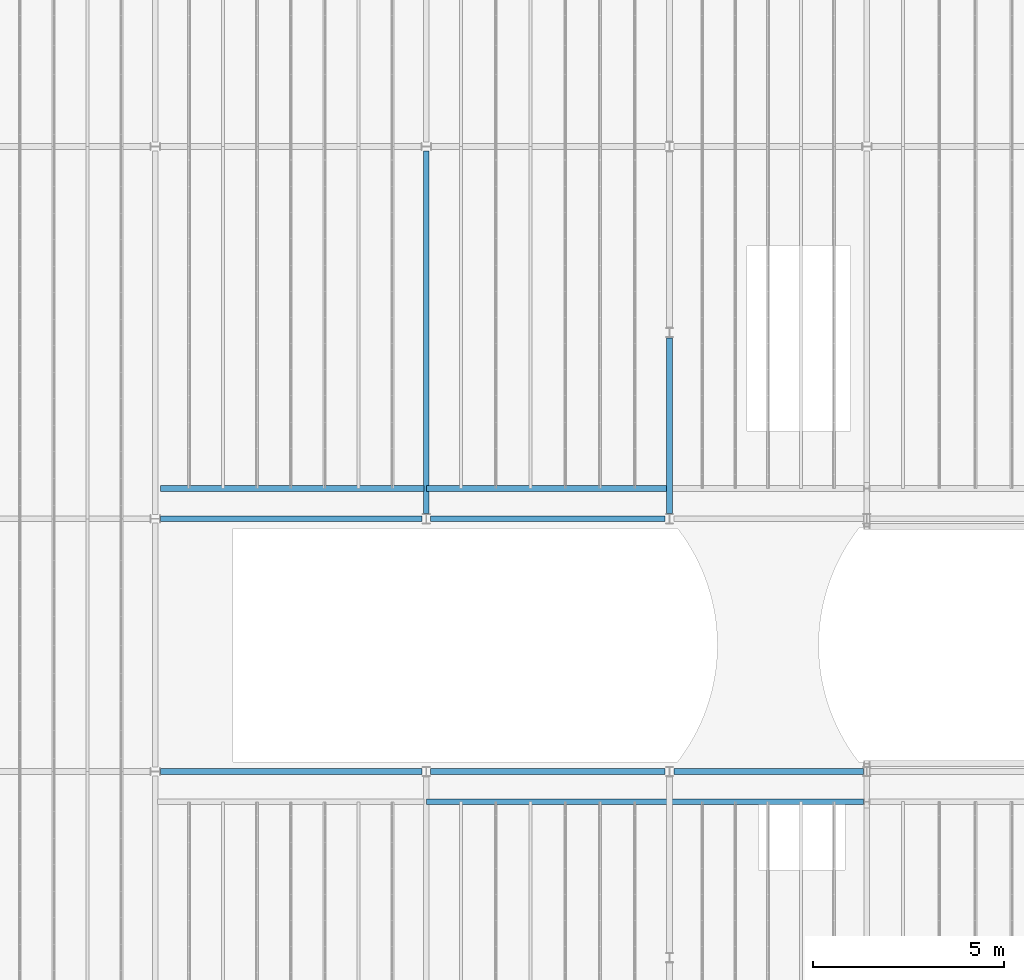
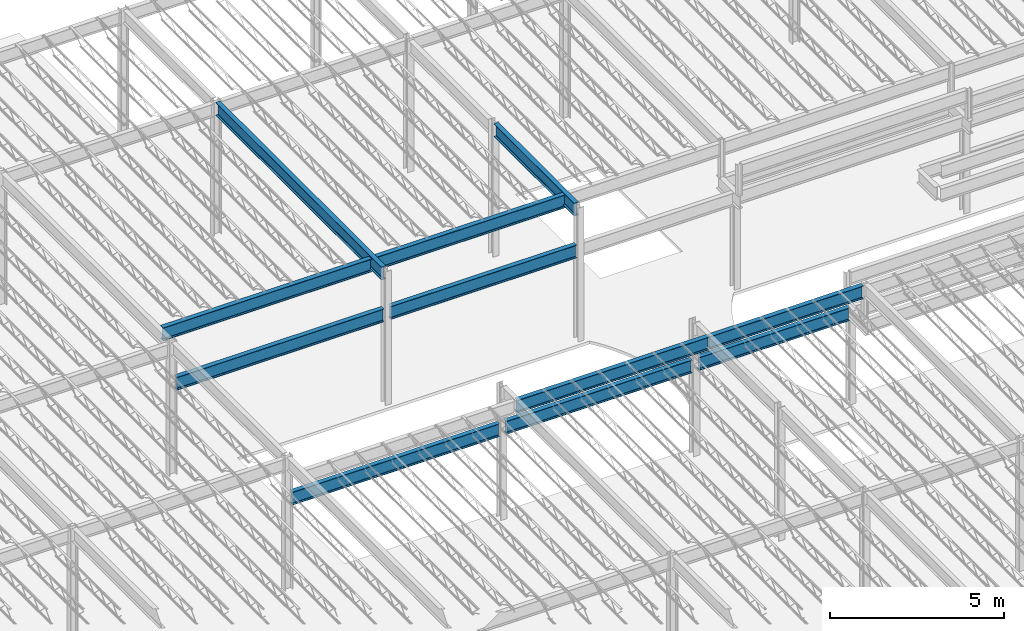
# One storey, part 11 of 119: 11 beams.
"""IFC2X3 building model written with IfcOpenShell, lengths in metres."""

from ifc_helpers import new_model, entity, si_unit, converted_unit, frame, frame_2d, origin, place, context, project, spatial, polyline, circle_curve, parameter, trimmed, segment, composite_curve, outline, extrude, material, element, save


model = new_model("IFC2X3")

# Units and contexts
model_context = context("Model", 3, precision=1e-09, world=origin())
plan_context = context("Plan", 3, precision=1e-09, world=origin())
ifc_project = project(units=[si_unit("LENGTHUNIT", "METRE"), si_unit("AREAUNIT", "SQUARE_METRE"), si_unit("VOLUMEUNIT", "CUBIC_METRE"), converted_unit("PLANEANGLEUNIT", "DEGREE", entity("IfcRatioMeasure", 0.01745329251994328), si_unit("PLANEANGLEUNIT", "RADIAN"), dimensions=[0, 0, 0, 0, 0, 0, 0]), si_unit("TIMEUNIT", "SECOND")], contexts=[model_context, plan_context])

# Site, building, storey
site_placement = place(None, origin())
site = spatial("IfcSite", under=ifc_project, at=site_placement, Name="Default", CompositionType="ELEMENT")
building_placement = place(site_placement, origin())
building = spatial("IfcBuilding", under=site, at=building_placement, CompositionType="ELEMENT")
storey_placement = place(building_placement, frame((0.0, 0.0, 4.570000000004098)))
storey = spatial("IfcBuildingStorey", under=building, at=storey_placement, Name="Second Floor", CompositionType="ELEMENT", Elevation=4.570000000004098)

# Beams
ifc_material = material(Name="Metal - Steel - 345 MPa")
beam_1_placement = place(storey_placement, frame((-20.06, 35.01386717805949, 4.679999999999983)))
element("IfcBeam", 1, at=beam_1_placement, inside=storey, material=ifc_material, Name="M_W-Wide Flange:W460X60:W460X60", ObjectType="M_W-Wide Flange:W460X60", context=model_context, shape_type="SweptSolid", body=[
    extrude(outline(composite_curve([segment(polyline([(-0.07649999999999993, -0.214199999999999), (-0.07649999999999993, -0.2275000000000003)]), True, "CONTINUOUS"), segment(polyline([(-0.07649999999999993, -0.2275000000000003), (0.07649999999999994, -0.2275000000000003)]), True, "CONTINUOUS"), segment(polyline([(0.07649999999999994, -0.2275000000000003), (0.07649999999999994, -0.214199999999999)]), True, "CONTINUOUS"), segment(polyline([(0.07649999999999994, -0.214199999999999), (0.0216999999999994, -0.214199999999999)]), True, "CONTINUOUS"), segment(trimmed(circle_curve(frame_2d((0.0216999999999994, -0.1964999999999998), x_axis=(0.0, -1.0)), 0.0177), [parameter(269.9999999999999)], [parameter(359.9999999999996)], True, "PARAMETER"), False, "CONTINUOUS"), segment(polyline([(0.00399999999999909, -0.1964999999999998), (0.00399999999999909, 0.1965000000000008)]), True, "CONTINUOUS"), segment(trimmed(circle_curve(frame_2d((0.0216999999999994, 0.1965000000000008), x_axis=(-1.0, 0.0)), 0.0177), [parameter(269.9999999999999)], [parameter(359.9999999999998)], True, "PARAMETER"), False, "CONTINUOUS"), segment(polyline([(0.0216999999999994, 0.2142000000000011), (0.07649999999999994, 0.2142000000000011)]), True, "CONTINUOUS"), segment(polyline([(0.07649999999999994, 0.2142000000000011), (0.07649999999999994, 0.2275000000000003)]), True, "CONTINUOUS"), segment(polyline([(0.07649999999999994, 0.2275000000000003), (-0.07649999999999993, 0.2275000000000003)]), True, "CONTINUOUS"), segment(polyline([(-0.07649999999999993, 0.2275000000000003), (-0.07649999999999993, 0.2142000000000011)]), True, "CONTINUOUS"), segment(polyline([(-0.07649999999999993, 0.2142000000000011), (-0.0216999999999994, 0.2142000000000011)]), True, "CONTINUOUS"), segment(trimmed(circle_curve(frame_2d((-0.0216999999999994, 0.1965000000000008), x_axis=(0.0, 1.0)), 0.0177), [parameter(269.9999999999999)], [parameter(359.9999999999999)], True, "PARAMETER"), False, "CONTINUOUS"), segment(polyline([(-0.003999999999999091, 0.1965000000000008), (-0.003999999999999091, -0.1964999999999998)]), True, "CONTINUOUS"), segment(trimmed(circle_curve(frame_2d((-0.0216999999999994, -0.1964999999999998), x_axis=(1.0, 0.0)), 0.0177), [parameter(269.9999999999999)], [parameter(5.088887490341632e-14)], True, "PARAMETER"), False, "CONTINUOUS"), segment(polyline([(-0.0216999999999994, -0.214199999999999), (-0.07649999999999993, -0.214199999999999)]), True, "CONTINUOUS")], self_intersect=False)), frame((0.0, 0.1373328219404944, -0.2275000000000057), z_axis=(0.0, -1.0, 0.0), x_axis=(1.0, 0.0, 0.0)), (0.0, 0.0, -1.0), 4.602979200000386),
])
beam_2_placement = place(storey_placement, frame((-26.44000000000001, 44.77806591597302, 4.679999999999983), z_axis=(0.0, 0.0, 1.0), x_axis=(-1.0, 0.0, 0.0)))
element("IfcBeam", 2, at=beam_2_placement, inside=storey, material=ifc_material, Name="M_W-Wide Flange:W460X60:W460X60", ObjectType="M_W-Wide Flange:W460X60", context=model_context, shape_type="SweptSolid", body=[
    extrude(outline(composite_curve([segment(polyline([(0.2142000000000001, -0.07649999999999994), (0.2275000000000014, -0.07649999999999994)]), True, "CONTINUOUS"), segment(polyline([(0.2275000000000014, -0.07649999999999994), (0.2275000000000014, 0.07649999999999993)]), True, "CONTINUOUS"), segment(polyline([(0.2275000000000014, 0.07649999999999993), (0.2142000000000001, 0.07649999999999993)]), True, "CONTINUOUS"), segment(polyline([(0.2142000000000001, 0.07649999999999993), (0.2142000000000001, 0.0216999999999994)]), True, "CONTINUOUS"), segment(trimmed(circle_curve(frame_2d((0.1965000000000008, 0.0216999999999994), x_axis=(1.0, 0.0)), 0.0177), [parameter(269.9999999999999)], [parameter(359.9999999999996)], True, "PARAMETER"), False, "CONTINUOUS"), segment(polyline([(0.1965000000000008, 0.003999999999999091), (-0.1964999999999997, 0.003999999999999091)]), True, "CONTINUOUS"), segment(trimmed(circle_curve(frame_2d((-0.1964999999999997, 0.0216999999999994), x_axis=(0.0, -1.0)), 0.0177), [parameter(269.9999999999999)], [parameter(359.9999999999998)], True, "PARAMETER"), False, "CONTINUOUS"), segment(polyline([(-0.2142, 0.0216999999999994), (-0.2142, 0.07649999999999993)]), True, "CONTINUOUS"), segment(polyline([(-0.2142, 0.07649999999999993), (-0.2274999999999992, 0.07649999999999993)]), True, "CONTINUOUS"), segment(polyline([(-0.2274999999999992, 0.07649999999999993), (-0.2274999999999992, -0.07649999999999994)]), True, "CONTINUOUS"), segment(polyline([(-0.2274999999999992, -0.07649999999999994), (-0.2142, -0.07649999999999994)]), True, "CONTINUOUS"), segment(polyline([(-0.2142, -0.07649999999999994), (-0.2142, -0.0216999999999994)]), True, "CONTINUOUS"), segment(trimmed(circle_curve(frame_2d((-0.1964999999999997, -0.0216999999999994), x_axis=(-1.0, 0.0)), 0.0177), [parameter(269.9999999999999)], [parameter(359.9999999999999)], True, "PARAMETER"), False, "CONTINUOUS"), segment(polyline([(-0.1964999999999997, -0.003999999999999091), (0.1965000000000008, -0.003999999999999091)]), True, "CONTINUOUS"), segment(trimmed(circle_curve(frame_2d((0.1965000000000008, -0.0216999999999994), x_axis=(0.0, 1.0)), 0.0177), [parameter(269.9999999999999)], [parameter(5.088887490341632e-14)], True, "PARAMETER"), False, "CONTINUOUS"), segment(polyline([(0.2142000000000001, -0.0216999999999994), (0.2142000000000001, -0.07649999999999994)]), True, "CONTINUOUS")], self_intersect=False)), frame((0.0, 9.626865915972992, -0.2275000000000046), z_axis=(0.0, -1.0, 0.0), x_axis=(0.0, 0.0, -1.0)), (0.0, 0.0, 1.0), 9.514099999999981),
])
beam_3_placement = place(storey_placement, frame((-26.55170178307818, 35.01000000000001, 3.366499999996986), z_axis=(0.0, 0.0, 1.0), x_axis=(0.0, 1.0, 0.0)))
element("IfcBeam", 3, at=beam_3_placement, inside=storey, material=ifc_material, Name="M_W-Wide Flange:W460X60:W460X60", ObjectType="M_W-Wide Flange:W460X60", context=model_context, shape_type="SweptSolid", body=[
    extrude(outline(composite_curve([segment(polyline([(0.214199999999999, -0.07650000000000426), (0.2275000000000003, -0.07650000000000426)]), True, "CONTINUOUS"), segment(polyline([(0.2275000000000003, -0.07650000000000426), (0.2275000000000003, 0.0764999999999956)]), True, "CONTINUOUS"), segment(polyline([(0.2275000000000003, 0.0764999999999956), (0.214199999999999, 0.0764999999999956)]), True, "CONTINUOUS"), segment(polyline([(0.214199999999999, 0.0764999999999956), (0.214199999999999, 0.02169999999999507)]), True, "CONTINUOUS"), segment(trimmed(circle_curve(frame_2d((0.1964999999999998, 0.02169999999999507), x_axis=(1.0, 0.0)), 0.0177), [parameter(269.9999999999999)], [parameter(359.9999999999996)], True, "PARAMETER"), False, "CONTINUOUS"), segment(polyline([(0.1964999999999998, 0.00399999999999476), (-0.1965000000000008, 0.00399999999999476)]), True, "CONTINUOUS"), segment(trimmed(circle_curve(frame_2d((-0.1965000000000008, 0.02169999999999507), x_axis=(0.0, -1.0)), 0.0177), [parameter(269.9999999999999)], [parameter(359.9999999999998)], True, "PARAMETER"), False, "CONTINUOUS"), segment(polyline([(-0.2142000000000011, 0.02169999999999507), (-0.2142000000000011, 0.0764999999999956)]), True, "CONTINUOUS"), segment(polyline([(-0.2142000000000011, 0.0764999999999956), (-0.2275000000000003, 0.0764999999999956)]), True, "CONTINUOUS"), segment(polyline([(-0.2275000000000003, 0.0764999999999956), (-0.2275000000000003, -0.07650000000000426)]), True, "CONTINUOUS"), segment(polyline([(-0.2275000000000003, -0.07650000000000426), (-0.2142000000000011, -0.07650000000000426)]), True, "CONTINUOUS"), segment(polyline([(-0.2142000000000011, -0.07650000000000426), (-0.2142000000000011, -0.02170000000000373)]), True, "CONTINUOUS"), segment(trimmed(circle_curve(frame_2d((-0.1965000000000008, -0.02170000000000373), x_axis=(-1.0, 0.0)), 0.0177), [parameter(269.9999999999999)], [parameter(359.9999999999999)], True, "PARAMETER"), False, "CONTINUOUS"), segment(polyline([(-0.1965000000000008, -0.004000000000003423), (0.1964999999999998, -0.004000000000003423)]), True, "CONTINUOUS"), segment(trimmed(circle_curve(frame_2d((0.1964999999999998, -0.02170000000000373), x_axis=(0.0, 1.0)), 0.0177), [parameter(269.9999999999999)], [parameter(5.088887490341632e-14)], True, "PARAMETER"), False, "CONTINUOUS"), segment(polyline([(0.214199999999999, -0.02170000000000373), (0.214199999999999, -0.07650000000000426)]), True, "CONTINUOUS")], self_intersect=False)), frame((0.0, 6.85709821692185, -0.2275000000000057), z_axis=(0.0, -1.0, 0.0), x_axis=(0.0, 0.0, -1.0)), (0.0, 0.0, 1.0), 6.854099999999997),
])
beam_4_placement = place(storey_placement, frame((-13.8042613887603, 28.38000000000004, 3.366499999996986), z_axis=(0.0, 0.0, 1.0), x_axis=(0.0, 1.0, 0.0)))
element("IfcBeam", 4, at=beam_4_placement, inside=storey, material=ifc_material, Name="M_W-Wide Flange:W460X60:W460X60", ObjectType="M_W-Wide Flange:W460X60", context=model_context, shape_type="SweptSolid", body=[
    extrude(outline(composite_curve([segment(polyline([(-0.07649999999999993, -0.2142000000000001), (-0.07649999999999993, -0.2275000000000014)]), True, "CONTINUOUS"), segment(polyline([(-0.07649999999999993, -0.2275000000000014), (0.07649999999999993, -0.2275000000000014)]), True, "CONTINUOUS"), segment(polyline([(0.07649999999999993, -0.2275000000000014), (0.07649999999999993, -0.2142000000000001)]), True, "CONTINUOUS"), segment(polyline([(0.07649999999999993, -0.2142000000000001), (0.0216999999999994, -0.2142000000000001)]), True, "CONTINUOUS"), segment(trimmed(circle_curve(frame_2d((0.0216999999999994, -0.1965000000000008), x_axis=(1.0, 0.0)), 0.0177), [parameter(180.0)], [parameter(269.9999999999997)], True, "PARAMETER"), False, "CONTINUOUS"), segment(polyline([(0.003999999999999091, -0.1965000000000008), (0.003999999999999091, 0.1964999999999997)]), True, "CONTINUOUS"), segment(trimmed(circle_curve(frame_2d((0.0216999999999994, 0.1964999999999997), x_axis=(1.0, 0.0)), 0.0177), [parameter(90.00000000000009)], [parameter(179.9999999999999)], True, "PARAMETER"), False, "CONTINUOUS"), segment(polyline([(0.0216999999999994, 0.2142), (0.07649999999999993, 0.2142)]), True, "CONTINUOUS"), segment(polyline([(0.07649999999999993, 0.2142), (0.07649999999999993, 0.2274999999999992)]), True, "CONTINUOUS"), segment(polyline([(0.07649999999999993, 0.2274999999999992), (-0.07649999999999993, 0.2274999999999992)]), True, "CONTINUOUS"), segment(polyline([(-0.07649999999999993, 0.2274999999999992), (-0.07649999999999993, 0.2142)]), True, "CONTINUOUS"), segment(polyline([(-0.07649999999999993, 0.2142), (-0.0216999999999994, 0.2142)]), True, "CONTINUOUS"), segment(trimmed(circle_curve(frame_2d((-0.0216999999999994, 0.1964999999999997), x_axis=(1.0, 0.0)), 0.0177), [parameter(359.9999999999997)], [parameter(89.99999999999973)], True, "PARAMETER"), False, "CONTINUOUS"), segment(polyline([(-0.003999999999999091, 0.1964999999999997), (-0.003999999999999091, -0.1965000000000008)]), True, "CONTINUOUS"), segment(trimmed(circle_curve(frame_2d((-0.0216999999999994, -0.1965000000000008), x_axis=(1.0, 0.0)), 0.0177), [parameter(269.9999999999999)], [parameter(0.0)], True, "PARAMETER"), False, "CONTINUOUS"), segment(polyline([(-0.0216999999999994, -0.2142000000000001), (-0.07649999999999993, -0.2142000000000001)]), True, "CONTINUOUS")], self_intersect=False)), frame((0.0, 6.141038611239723, -0.2275000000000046), z_axis=(0.0, 1.0, 0.0), x_axis=(-1.0, 0.0, 0.0)), (0.0, 0.0, -1.0), 4.976134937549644),
])
beam_5_placement = place(storey_placement, frame((-20.18426138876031, 35.00999999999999, 3.366499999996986), z_axis=(0.0, 0.0, 1.0), x_axis=(0.0, 1.0, 0.0)))
element("IfcBeam", 5, at=beam_5_placement, inside=storey, material=ifc_material, Name="M_W-Wide Flange:W460X60:W460X60", ObjectType="M_W-Wide Flange:W460X60", context=model_context, shape_type="SweptSolid", body=[
    extrude(outline(composite_curve([segment(polyline([(0.214199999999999, -0.07649999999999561), (0.2275000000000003, -0.07649999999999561)]), True, "CONTINUOUS"), segment(polyline([(0.2275000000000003, -0.07649999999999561), (0.2275000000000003, 0.07650000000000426)]), True, "CONTINUOUS"), segment(polyline([(0.2275000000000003, 0.07650000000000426), (0.214199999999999, 0.07650000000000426)]), True, "CONTINUOUS"), segment(polyline([(0.214199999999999, 0.07650000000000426), (0.214199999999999, 0.02170000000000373)]), True, "CONTINUOUS"), segment(trimmed(circle_curve(frame_2d((0.1964999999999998, 0.02170000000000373), x_axis=(1.0, 0.0)), 0.0177), [parameter(269.9999999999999)], [parameter(359.9999999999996)], True, "PARAMETER"), False, "CONTINUOUS"), segment(polyline([(0.1964999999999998, 0.004000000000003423), (-0.1965000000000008, 0.004000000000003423)]), True, "CONTINUOUS"), segment(trimmed(circle_curve(frame_2d((-0.1965000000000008, 0.02170000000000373), x_axis=(0.0, -1.0)), 0.0177), [parameter(269.9999999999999)], [parameter(359.9999999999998)], True, "PARAMETER"), False, "CONTINUOUS"), segment(polyline([(-0.2142000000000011, 0.02170000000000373), (-0.2142000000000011, 0.07650000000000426)]), True, "CONTINUOUS"), segment(polyline([(-0.2142000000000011, 0.07650000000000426), (-0.2275000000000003, 0.07650000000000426)]), True, "CONTINUOUS"), segment(polyline([(-0.2275000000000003, 0.07650000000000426), (-0.2275000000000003, -0.07649999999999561)]), True, "CONTINUOUS"), segment(polyline([(-0.2275000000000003, -0.07649999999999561), (-0.2142000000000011, -0.07649999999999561)]), True, "CONTINUOUS"), segment(polyline([(-0.2142000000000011, -0.07649999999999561), (-0.2142000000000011, -0.02169999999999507)]), True, "CONTINUOUS"), segment(trimmed(circle_curve(frame_2d((-0.1965000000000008, -0.02169999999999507), x_axis=(-1.0, 0.0)), 0.0177), [parameter(269.9999999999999)], [parameter(359.9999999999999)], True, "PARAMETER"), False, "CONTINUOUS"), segment(polyline([(-0.1965000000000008, -0.003999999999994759), (0.1964999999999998, -0.003999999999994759)]), True, "CONTINUOUS"), segment(trimmed(circle_curve(frame_2d((0.1964999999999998, -0.02169999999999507), x_axis=(0.0, 1.0)), 0.0177), [parameter(269.9999999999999)], [parameter(5.088887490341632e-14)], True, "PARAMETER"), False, "CONTINUOUS"), segment(polyline([(0.214199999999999, -0.02169999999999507), (0.214199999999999, -0.07649999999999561)]), True, "CONTINUOUS")], self_intersect=False)), frame((0.0, 6.141038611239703, -0.2275000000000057), z_axis=(0.0, -1.0, 0.0), x_axis=(0.0, 0.0, -1.0)), (0.0, 0.0, 1.0), 6.150600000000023),
])
beam_6_placement = place(storey_placement, frame((-7.277609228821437, 27.58500000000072, 4.616499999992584), z_axis=(0.0, 0.0, 1.0), x_axis=(0.0, -1.0, 0.0)))
element("IfcBeam", 6, at=beam_6_placement, inside=storey, material=ifc_material, Name="M_W-Wide Flange:W460X60:W460X60", ObjectType="M_W-Wide Flange:W460X60", context=model_context, shape_type="SweptSolid", body=[
    extrude(outline(composite_curve([segment(polyline([(0.214199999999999, -0.07649999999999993), (0.2275000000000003, -0.07649999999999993)]), True, "CONTINUOUS"), segment(polyline([(0.2275000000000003, -0.07649999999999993), (0.2275000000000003, 0.07649999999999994)]), True, "CONTINUOUS"), segment(polyline([(0.2275000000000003, 0.07649999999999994), (0.214199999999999, 0.07649999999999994)]), True, "CONTINUOUS"), segment(polyline([(0.214199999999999, 0.07649999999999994), (0.214199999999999, 0.0216999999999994)]), True, "CONTINUOUS"), segment(trimmed(circle_curve(frame_2d((0.1964999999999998, 0.0216999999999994), x_axis=(0.0, 1.0)), 0.0177), [parameter(180.0)], [parameter(269.9999999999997)], True, "PARAMETER"), False, "CONTINUOUS"), segment(polyline([(0.1964999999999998, 0.00399999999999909), (-0.1965000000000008, 0.00399999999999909)]), True, "CONTINUOUS"), segment(trimmed(circle_curve(frame_2d((-0.1965000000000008, 0.0216999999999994), x_axis=(0.0, 1.0)), 0.0177), [parameter(90.00000000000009)], [parameter(179.9999999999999)], True, "PARAMETER"), False, "CONTINUOUS"), segment(polyline([(-0.2142000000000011, 0.0216999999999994), (-0.2142000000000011, 0.07649999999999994)]), True, "CONTINUOUS"), segment(polyline([(-0.2142000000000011, 0.07649999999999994), (-0.2275000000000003, 0.07649999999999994)]), True, "CONTINUOUS"), segment(polyline([(-0.2275000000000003, 0.07649999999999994), (-0.2275000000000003, -0.07649999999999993)]), True, "CONTINUOUS"), segment(polyline([(-0.2275000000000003, -0.07649999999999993), (-0.2142000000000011, -0.07649999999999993)]), True, "CONTINUOUS"), segment(polyline([(-0.2142000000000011, -0.07649999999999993), (-0.2142000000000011, -0.0216999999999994)]), True, "CONTINUOUS"), segment(trimmed(circle_curve(frame_2d((-0.1965000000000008, -0.0216999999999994), x_axis=(0.0, 1.0)), 0.0177), [parameter(359.9999999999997)], [parameter(89.99999999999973)], True, "PARAMETER"), False, "CONTINUOUS"), segment(polyline([(-0.1965000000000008, -0.003999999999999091), (0.1964999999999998, -0.003999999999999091)]), True, "CONTINUOUS"), segment(trimmed(circle_curve(frame_2d((0.1964999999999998, -0.0216999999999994), x_axis=(0.0, 1.0)), 0.0177), [parameter(269.9999999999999)], [parameter(0.0)], True, "PARAMETER"), False, "CONTINUOUS"), segment(polyline([(0.214199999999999, -0.0216999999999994), (0.214199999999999, -0.07649999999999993)]), True, "CONTINUOUS")], self_intersect=False)), frame((0.0, -12.76969077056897, -0.2275000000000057), z_axis=(0.0, 1.0, 0.0), x_axis=(0.0, 0.0, -1.0)), (0.0, 0.0, 1.0), 5.078624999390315),
])
beam_7_placement = place(storey_placement, frame((-26.5517017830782, 28.38000000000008, 3.366499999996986), z_axis=(0.0, 0.0, 1.0), x_axis=(0.0, 1.0, 0.0)))
element("IfcBeam", 7, at=beam_7_placement, inside=storey, material=ifc_material, Name="M_W-Wide Flange:W460X60:W460X60", ObjectType="M_W-Wide Flange:W460X60", context=model_context, shape_type="SweptSolid", body=[
    extrude(outline(composite_curve([segment(polyline([(-0.07649999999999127, -0.2142000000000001), (-0.07649999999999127, -0.2275000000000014)]), True, "CONTINUOUS"), segment(polyline([(-0.07649999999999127, -0.2275000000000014), (0.07650000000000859, -0.2275000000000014)]), True, "CONTINUOUS"), segment(polyline([(0.07650000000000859, -0.2275000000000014), (0.07650000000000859, -0.2142000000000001)]), True, "CONTINUOUS"), segment(polyline([(0.07650000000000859, -0.2142000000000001), (0.02170000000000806, -0.2142000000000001)]), True, "CONTINUOUS"), segment(trimmed(circle_curve(frame_2d((0.02170000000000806, -0.1965000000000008), x_axis=(1.0, 0.0)), 0.0177), [parameter(180.0)], [parameter(269.9999999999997)], True, "PARAMETER"), False, "CONTINUOUS"), segment(polyline([(0.004000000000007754, -0.1965000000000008), (0.004000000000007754, 0.1964999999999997)]), True, "CONTINUOUS"), segment(trimmed(circle_curve(frame_2d((0.02170000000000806, 0.1964999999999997), x_axis=(1.0, 0.0)), 0.0177), [parameter(90.00000000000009)], [parameter(179.9999999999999)], True, "PARAMETER"), False, "CONTINUOUS"), segment(polyline([(0.02170000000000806, 0.2142), (0.07650000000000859, 0.2142)]), True, "CONTINUOUS"), segment(polyline([(0.07650000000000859, 0.2142), (0.07650000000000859, 0.2274999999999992)]), True, "CONTINUOUS"), segment(polyline([(0.07650000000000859, 0.2274999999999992), (-0.07649999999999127, 0.2274999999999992)]), True, "CONTINUOUS"), segment(polyline([(-0.07649999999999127, 0.2274999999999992), (-0.07649999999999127, 0.2142)]), True, "CONTINUOUS"), segment(polyline([(-0.07649999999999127, 0.2142), (-0.02169999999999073, 0.2142)]), True, "CONTINUOUS"), segment(trimmed(circle_curve(frame_2d((-0.02169999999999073, 0.1964999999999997), x_axis=(1.0, 0.0)), 0.0177), [parameter(359.9999999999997)], [parameter(89.99999999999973)], True, "PARAMETER"), False, "CONTINUOUS"), segment(polyline([(-0.003999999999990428, 0.1964999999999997), (-0.003999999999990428, -0.1965000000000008)]), True, "CONTINUOUS"), segment(trimmed(circle_curve(frame_2d((-0.02169999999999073, -0.1965000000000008), x_axis=(1.0, 0.0)), 0.0177), [parameter(269.9999999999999)], [parameter(0.0)], True, "PARAMETER"), False, "CONTINUOUS"), segment(polyline([(-0.02169999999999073, -0.2142000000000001), (-0.07649999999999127, -0.2142000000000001)]), True, "CONTINUOUS")], self_intersect=False)), frame((0.0, 6.857098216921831, -0.2275000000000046), z_axis=(0.0, 1.0, 0.0), x_axis=(-1.0, 0.0, 0.0)), (0.0, 0.0, -1.0), 6.854099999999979),
])
beam_8_placement = place(storey_placement, frame((-7.278579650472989, 35.80499999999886, 4.616499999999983), z_axis=(0.0, 0.0, 1.0), x_axis=(0.0, -1.0, 0.0)))
element("IfcBeam", 8, at=beam_8_placement, inside=storey, material=ifc_material, Name="M_W-Wide Flange:W460X60:W460X60", ObjectType="M_W-Wide Flange:W460X60", context=model_context, shape_type="SweptSolid", body=[
    extrude(outline(composite_curve([segment(polyline([(-0.07649999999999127, -0.2142000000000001), (-0.07649999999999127, -0.2275000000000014)]), True, "CONTINUOUS"), segment(polyline([(-0.07649999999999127, -0.2275000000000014), (0.07650000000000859, -0.2275000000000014)]), True, "CONTINUOUS"), segment(polyline([(0.07650000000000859, -0.2275000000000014), (0.07650000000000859, -0.2142000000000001)]), True, "CONTINUOUS"), segment(polyline([(0.07650000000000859, -0.2142000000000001), (0.02170000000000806, -0.2142000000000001)]), True, "CONTINUOUS"), segment(trimmed(circle_curve(frame_2d((0.02170000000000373, -0.1965000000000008), x_axis=(1.0, 0.0)), 0.0177), [parameter(180.0)], [parameter(269.9999999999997)], True, "PARAMETER"), False, "CONTINUOUS"), segment(polyline([(0.004000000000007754, -0.1965000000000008), (0.004000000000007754, 0.1964999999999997)]), True, "CONTINUOUS"), segment(trimmed(circle_curve(frame_2d((0.02170000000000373, 0.1964999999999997), x_axis=(1.0, 0.0)), 0.0177), [parameter(90.00000000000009)], [parameter(179.9999999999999)], True, "PARAMETER"), False, "CONTINUOUS"), segment(polyline([(0.02170000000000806, 0.2142), (0.07650000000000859, 0.2142)]), True, "CONTINUOUS"), segment(polyline([(0.07650000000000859, 0.2142), (0.07650000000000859, 0.2274999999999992)]), True, "CONTINUOUS"), segment(polyline([(0.07650000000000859, 0.2274999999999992), (-0.07649999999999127, 0.2274999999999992)]), True, "CONTINUOUS"), segment(polyline([(-0.07649999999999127, 0.2274999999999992), (-0.07649999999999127, 0.2142)]), True, "CONTINUOUS"), segment(polyline([(-0.07649999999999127, 0.2142), (-0.02169999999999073, 0.2142)]), True, "CONTINUOUS"), segment(trimmed(circle_curve(frame_2d((-0.02169999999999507, 0.1964999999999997), x_axis=(1.0, 0.0)), 0.0177), [parameter(359.9999999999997)], [parameter(89.99999999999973)], True, "PARAMETER"), False, "CONTINUOUS"), segment(polyline([(-0.003999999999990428, 0.1964999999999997), (-0.003999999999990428, -0.1965000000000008)]), True, "CONTINUOUS"), segment(trimmed(circle_curve(frame_2d((-0.02169999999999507, -0.1965000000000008), x_axis=(1.0, 0.0)), 0.0177), [parameter(269.9999999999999)], [parameter(0.0)], True, "PARAMETER"), False, "CONTINUOUS"), segment(polyline([(-0.02169999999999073, -0.2142000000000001), (-0.07649999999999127, -0.2142000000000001)]), True, "CONTINUOUS")], self_intersect=False)), frame((0.0, -19.14872034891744, -0.2275000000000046), z_axis=(0.0, -1.0, 0.0), x_axis=(1.0, 0.0, 0.0)), (0.0, 0.0, -1.0), 6.354599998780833),
])
beam_9_placement = place(storey_placement, frame((-20.18426138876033, 28.38000000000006, 3.366499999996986), z_axis=(0.0, 0.0, 1.0), x_axis=(0.0, 1.0, 0.0)))
element("IfcBeam", 9, at=beam_9_placement, inside=storey, material=ifc_material, Name="M_W-Wide Flange:W460X60:W460X60", ObjectType="M_W-Wide Flange:W460X60", context=model_context, shape_type="SweptSolid", body=[
    extrude(outline(composite_curve([segment(polyline([(-0.07649999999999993, -0.2142000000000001), (-0.07649999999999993, -0.2275000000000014)]), True, "CONTINUOUS"), segment(polyline([(-0.07649999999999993, -0.2275000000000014), (0.07649999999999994, -0.2275000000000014)]), True, "CONTINUOUS"), segment(polyline([(0.07649999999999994, -0.2275000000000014), (0.07649999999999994, -0.2142000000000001)]), True, "CONTINUOUS"), segment(polyline([(0.07649999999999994, -0.2142000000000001), (0.0216999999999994, -0.2142000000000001)]), True, "CONTINUOUS"), segment(trimmed(circle_curve(frame_2d((0.0216999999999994, -0.1965000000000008), x_axis=(1.0, 0.0)), 0.0177), [parameter(180.0)], [parameter(269.9999999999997)], True, "PARAMETER"), False, "CONTINUOUS"), segment(polyline([(0.00399999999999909, -0.1965000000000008), (0.00399999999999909, 0.1964999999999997)]), True, "CONTINUOUS"), segment(trimmed(circle_curve(frame_2d((0.0216999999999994, 0.1964999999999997), x_axis=(1.0, 0.0)), 0.0177), [parameter(90.00000000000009)], [parameter(179.9999999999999)], True, "PARAMETER"), False, "CONTINUOUS"), segment(polyline([(0.0216999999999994, 0.2142), (0.07649999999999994, 0.2142)]), True, "CONTINUOUS"), segment(polyline([(0.07649999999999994, 0.2142), (0.07649999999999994, 0.2274999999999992)]), True, "CONTINUOUS"), segment(polyline([(0.07649999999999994, 0.2274999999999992), (-0.07649999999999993, 0.2274999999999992)]), True, "CONTINUOUS"), segment(polyline([(-0.07649999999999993, 0.2274999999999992), (-0.07649999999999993, 0.2142)]), True, "CONTINUOUS"), segment(polyline([(-0.07649999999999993, 0.2142), (-0.0216999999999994, 0.2142)]), True, "CONTINUOUS"), segment(trimmed(circle_curve(frame_2d((-0.0216999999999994, 0.1964999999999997), x_axis=(1.0, 0.0)), 0.0177), [parameter(359.9999999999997)], [parameter(89.99999999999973)], True, "PARAMETER"), False, "CONTINUOUS"), segment(polyline([(-0.003999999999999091, 0.1964999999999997), (-0.003999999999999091, -0.1965000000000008)]), True, "CONTINUOUS"), segment(trimmed(circle_curve(frame_2d((-0.0216999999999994, -0.1965000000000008), x_axis=(1.0, 0.0)), 0.0177), [parameter(269.9999999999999)], [parameter(0.0)], True, "PARAMETER"), False, "CONTINUOUS"), segment(polyline([(-0.0216999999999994, -0.2142000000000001), (-0.07649999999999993, -0.2142000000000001)]), True, "CONTINUOUS")], self_intersect=False)), frame((0.0, 6.141038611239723, -0.2275000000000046), z_axis=(0.0, 1.0, 0.0), x_axis=(-1.0, 0.0, 0.0)), (0.0, 0.0, -1.0), 6.150600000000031),
])
beam_10_placement = place(storey_placement, frame((-7.278579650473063, 27.5850000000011, 4.616499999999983), z_axis=(0.0, 0.0, 1.0), x_axis=(0.0, -1.0, 0.0)))
element("IfcBeam", 10, at=beam_10_placement, inside=storey, material=ifc_material, Name="M_W-Wide Flange:W460X60:W460X60", ObjectType="M_W-Wide Flange:W460X60", context=model_context, shape_type="SweptSolid", body=[
    extrude(outline(composite_curve([segment(polyline([(0.2142000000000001, -0.0764999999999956), (0.2275000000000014, -0.0764999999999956)]), True, "CONTINUOUS"), segment(polyline([(0.2275000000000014, -0.0764999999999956), (0.2275000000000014, 0.07650000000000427)]), True, "CONTINUOUS"), segment(polyline([(0.2275000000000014, 0.07650000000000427), (0.2142000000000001, 0.07650000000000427)]), True, "CONTINUOUS"), segment(polyline([(0.2142000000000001, 0.07650000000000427), (0.2142000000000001, 0.02170000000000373)]), True, "CONTINUOUS"), segment(trimmed(circle_curve(frame_2d((0.1965000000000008, 0.0216999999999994), x_axis=(0.0, 1.0)), 0.0177), [parameter(180.0)], [parameter(269.9999999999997)], True, "PARAMETER"), False, "CONTINUOUS"), segment(polyline([(0.1965000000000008, 0.004000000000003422), (-0.1964999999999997, 0.004000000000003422)]), True, "CONTINUOUS"), segment(trimmed(circle_curve(frame_2d((-0.1964999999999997, 0.0216999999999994), x_axis=(0.0, 1.0)), 0.0177), [parameter(90.00000000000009)], [parameter(179.9999999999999)], True, "PARAMETER"), False, "CONTINUOUS"), segment(polyline([(-0.2142, 0.02170000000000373), (-0.2142, 0.07650000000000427)]), True, "CONTINUOUS"), segment(polyline([(-0.2142, 0.07650000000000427), (-0.2274999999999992, 0.07650000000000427)]), True, "CONTINUOUS"), segment(polyline([(-0.2274999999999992, 0.07650000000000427), (-0.2274999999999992, -0.0764999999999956)]), True, "CONTINUOUS"), segment(polyline([(-0.2274999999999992, -0.0764999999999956), (-0.2142, -0.0764999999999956)]), True, "CONTINUOUS"), segment(polyline([(-0.2142, -0.0764999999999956), (-0.2142, -0.02169999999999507)]), True, "CONTINUOUS"), segment(trimmed(circle_curve(frame_2d((-0.1964999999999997, -0.0216999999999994), x_axis=(0.0, 1.0)), 0.0177), [parameter(359.9999999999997)], [parameter(89.99999999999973)], True, "PARAMETER"), False, "CONTINUOUS"), segment(polyline([(-0.1964999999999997, -0.00399999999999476), (0.1965000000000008, -0.00399999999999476)]), True, "CONTINUOUS"), segment(trimmed(circle_curve(frame_2d((0.1965000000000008, -0.0216999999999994), x_axis=(0.0, 1.0)), 0.0177), [parameter(269.9999999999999)], [parameter(0.0)], True, "PARAMETER"), False, "CONTINUOUS"), segment(polyline([(0.2142000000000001, -0.02169999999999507), (0.2142000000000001, -0.0764999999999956)]), True, "CONTINUOUS")], self_intersect=False)), frame((0.0, -19.14872034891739, -0.2275000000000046), z_axis=(0.0, 1.0, 0.0), x_axis=(0.0, 0.0, -1.0)), (0.0, 0.0, 1.0), 6.354599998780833),
])
beam_11_placement = place(storey_placement, frame((-26.44028395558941, 35.80499999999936, 4.616499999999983), z_axis=(0.0, 0.0, 1.0), x_axis=(0.0, 1.0, 0.0)))
element("IfcBeam", 11, at=beam_11_placement, inside=storey, material=ifc_material, Name="M_W-Wide Flange:W460X60:W460X60", ObjectType="M_W-Wide Flange:W460X60", context=model_context, shape_type="SweptSolid", body=[
    extrude(outline(composite_curve([segment(polyline([(0.2142, -0.07649999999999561), (0.2275000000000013, -0.07649999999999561)]), True, "CONTINUOUS"), segment(polyline([(0.2275000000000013, -0.07649999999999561), (0.2275000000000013, 0.07650000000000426)]), True, "CONTINUOUS"), segment(polyline([(0.2275000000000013, 0.07650000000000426), (0.2142, 0.07650000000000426)]), True, "CONTINUOUS"), segment(polyline([(0.2142, 0.07650000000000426), (0.2142, 0.02170000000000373)]), True, "CONTINUOUS"), segment(trimmed(circle_curve(frame_2d((0.1965000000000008, 0.02170000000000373), x_axis=(0.0, 1.0)), 0.0177), [parameter(180.0)], [parameter(269.9999999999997)], True, "PARAMETER"), False, "CONTINUOUS"), segment(polyline([(0.1965000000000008, 0.004000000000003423), (-0.1964999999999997, 0.004000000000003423)]), True, "CONTINUOUS"), segment(trimmed(circle_curve(frame_2d((-0.1964999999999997, 0.02170000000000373), x_axis=(0.0, 1.0)), 0.0177), [parameter(90.00000000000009)], [parameter(179.9999999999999)], True, "PARAMETER"), False, "CONTINUOUS"), segment(polyline([(-0.2142, 0.02170000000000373), (-0.2142, 0.07650000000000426)]), True, "CONTINUOUS"), segment(polyline([(-0.2142, 0.07650000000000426), (-0.2274999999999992, 0.07650000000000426)]), True, "CONTINUOUS"), segment(polyline([(-0.2274999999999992, 0.07650000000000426), (-0.2274999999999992, -0.07649999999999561)]), True, "CONTINUOUS"), segment(polyline([(-0.2274999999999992, -0.07649999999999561), (-0.2142, -0.07649999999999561)]), True, "CONTINUOUS"), segment(polyline([(-0.2142, -0.07649999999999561), (-0.2142, -0.02169999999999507)]), True, "CONTINUOUS"), segment(trimmed(circle_curve(frame_2d((-0.1964999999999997, -0.02169999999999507), x_axis=(0.0, 1.0)), 0.0177), [parameter(359.9999999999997)], [parameter(89.99999999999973)], True, "PARAMETER"), False, "CONTINUOUS"), segment(polyline([(-0.1964999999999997, -0.003999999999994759), (0.1965000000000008, -0.003999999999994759)]), True, "CONTINUOUS"), segment(trimmed(circle_curve(frame_2d((0.1965000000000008, -0.02169999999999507), x_axis=(0.0, 1.0)), 0.0177), [parameter(269.9999999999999)], [parameter(0.0)], True, "PARAMETER"), False, "CONTINUOUS"), segment(polyline([(0.2142, -0.02169999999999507), (0.2142, -0.07649999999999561)]), True, "CONTINUOUS")], self_intersect=False)), frame((0.0, 6.970230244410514, -0.2275000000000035), z_axis=(0.0, -1.0, 0.0), x_axis=(0.0, 0.0, -1.0)), (0.0, 0.0, 1.0), 6.907014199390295),
])

save(model, "model.ifc")
